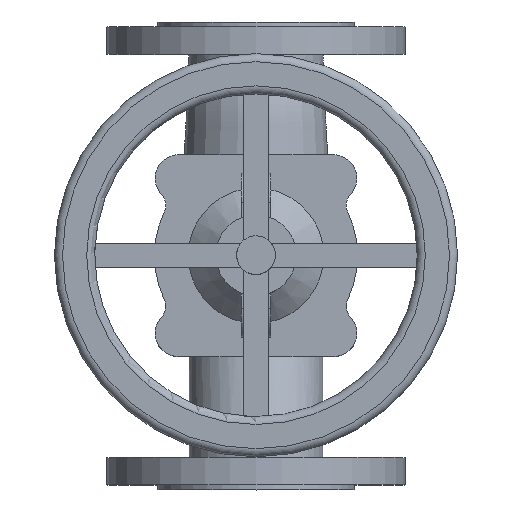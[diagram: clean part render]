
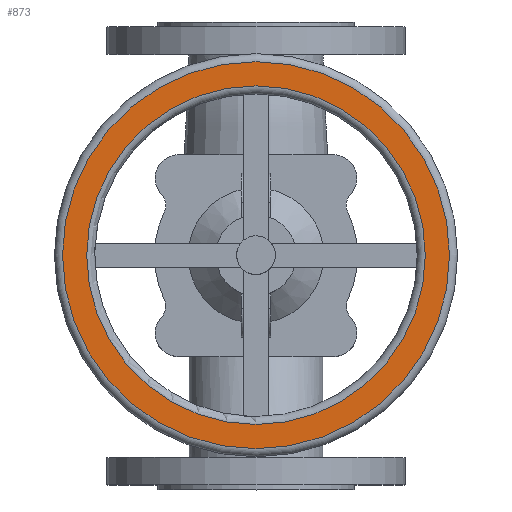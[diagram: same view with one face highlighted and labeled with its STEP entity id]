
A CAD part, top view. The second image highlights one B-rep face of the part: STEP entity #873.
In plain terms, the highlighted planar face has unit normal (0, 0, 1).
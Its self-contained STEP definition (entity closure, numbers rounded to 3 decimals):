
#873=ADVANCED_FACE('',(#2709,#2711),#2713,.T.);
#2709=FACE_BOUND('',#2710,.T.);
#2710=EDGE_LOOP('',(#32832,#32833));
#2711=FACE_BOUND('',#2712,.T.);
#2712=EDGE_LOOP('',(#32834,#32835));
#2713=PLANE('',#2714);
#2714=AXIS2_PLACEMENT_3D('',#2715,#2716,#2717);
#2715=CARTESIAN_POINT('',(0.,0.,290.));
#2716=DIRECTION('',(0.,0.,1.));
#2717=DIRECTION('',(0.,1.,0.));
#32832=ORIENTED_EDGE('',*,*,#41642,.F.);
#32833=ORIENTED_EDGE('',*,*,#41643,.F.);
#32834=ORIENTED_EDGE('',*,*,#41623,.T.);
#32835=ORIENTED_EDGE('',*,*,#41622,.T.);
#41622=EDGE_CURVE('',#42389,#42390,#42391,.T.);
#41623=EDGE_CURVE('',#42390,#42389,#42392,.T.);
#41642=EDGE_CURVE('',#42429,#42430,#42431,.T.);
#41643=EDGE_CURVE('',#42430,#42429,#42432,.T.);
#42389=VERTEX_POINT('',#43972);
#42390=VERTEX_POINT('',#43973);
#42391=CIRCLE('',#43974,105.);
#42392=CIRCLE('',#43978,105.);
#42429=VERTEX_POINT('',#44068);
#42430=VERTEX_POINT('',#44069);
#42431=CIRCLE('',#44070,120.);
#42432=CIRCLE('',#44074,120.);
#43972=CARTESIAN_POINT('',(0.,-105.,290.));
#43973=CARTESIAN_POINT('',(0.,105.,290.));
#43974=AXIS2_PLACEMENT_3D('',#43975,#43976,#43977);
#43975=CARTESIAN_POINT('',(0.,0.,290.));
#43976=DIRECTION('',(0.,0.,-1.));
#43977=DIRECTION('',(0.,-1.,0.));
#43978=AXIS2_PLACEMENT_3D('',#43979,#43980,#43981);
#43979=CARTESIAN_POINT('',(0.,0.,290.));
#43980=DIRECTION('',(0.,0.,-1.));
#43981=DIRECTION('',(0.,1.,0.));
#44068=CARTESIAN_POINT('',(0.,-120.,290.));
#44069=CARTESIAN_POINT('',(0.,120.,290.));
#44070=AXIS2_PLACEMENT_3D('',#44071,#44072,#44073);
#44071=CARTESIAN_POINT('',(0.,0.,290.));
#44072=DIRECTION('',(0.,0.,-1.));
#44073=DIRECTION('',(0.,-1.,0.));
#44074=AXIS2_PLACEMENT_3D('',#44075,#44076,#44077);
#44075=CARTESIAN_POINT('',(0.,0.,290.));
#44076=DIRECTION('',(0.,0.,-1.));
#44077=DIRECTION('',(0.,1.,0.));
